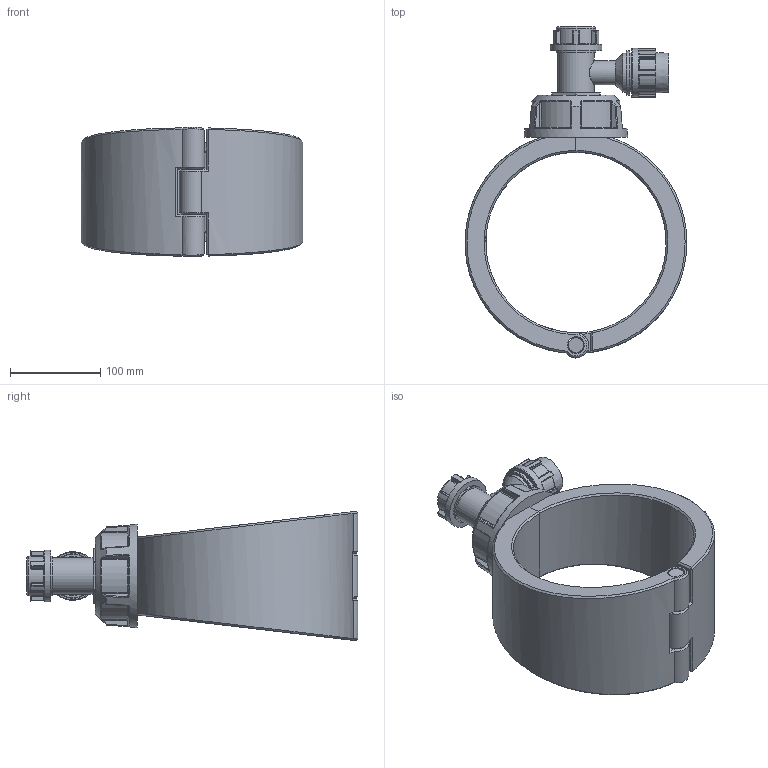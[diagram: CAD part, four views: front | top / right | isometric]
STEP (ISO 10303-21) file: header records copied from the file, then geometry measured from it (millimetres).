
FILE_DESCRIPTION(/* description */ ('Plassadle Tapper 200x32'),/* implementation_level */ '2;1');
FILE_NAME(/* name */ 'C:\Dropbox\KIMPROJECTS-Inventor 2019\99-16-3568-Processing\Mechanical Fittings\16310\stp\163100200025.stp',/* time_stamp */ '2024-08-28T10:40:03+02:00',/* author */ ('comp2'),/* organization */ (''),/* preprocessor_version */ 'ST-DEVELOPER v17.2',/* originating_system */ 'Autodesk Inventor 2019',/* authorisation */ '');
FILE_SCHEMA (('AUTOMOTIVE_DESIGN { 1 0 10303 214 3 1 1 }'));
Length unit declared in the file: millimetre
Products named in the file (1): 163100200025
Bounding box: 245.94 x 367.99 x 143.53 mm (x, y, z)
Volume: 2399184.9 mm3; surface area: 277987.2 mm2
Topology: 4 solids, 4 shells, 519 faces, 1253 edges, 754 vertices
Faces by surface type: cylinder 184, plane 109, bspline 87, torus 83, sphere 40, cone 16
Full cylindrical faces by diameter (mm): 16.72 x1, 18.72 x3, 25 x1, 27 x1, 34.5 x1, 40.25 x1, 43.2 x2, 44.25 x2, 49.356 x1, 54 x1, 57.5 x1
Entity records: 18769 total; most frequent: CARTESIAN_POINT 7016, ORIENTED_EDGE 2508, DIRECTION 2426, EDGE_CURVE 1254, AXIS2_PLACEMENT_3D 1028, VERTEX_POINT 755, CIRCLE 563, EDGE_LOOP 537
